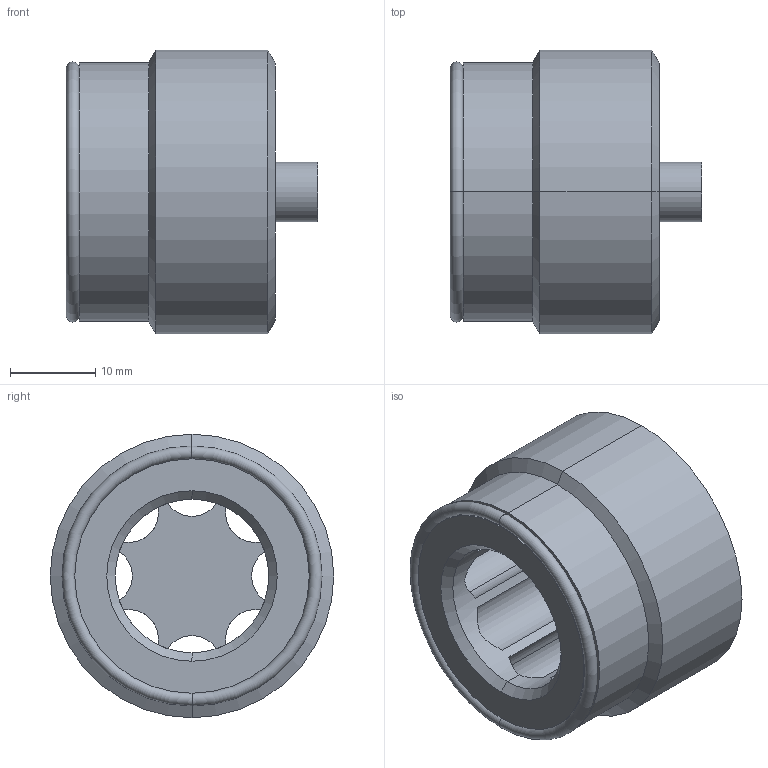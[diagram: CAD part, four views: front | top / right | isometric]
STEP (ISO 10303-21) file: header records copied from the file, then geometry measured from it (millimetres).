
FILE_DESCRIPTION (( 'STEP AP214' ), '1' );
FILE_NAME ('INRV18-001.STEP', '2023-07-14T11:25:47', ( '' ), ( '' ), 'SwSTEP 2.0', 'SolidWorks 2014', '' );
FILE_SCHEMA (( 'AUTOMOTIVE_DESIGN' ));
Length unit declared in the file: millimetre
Products named in the file (1): INRV18-001
Bounding box: 29.5 x 33.25 x 33.25 mm (x, y, z)
Volume: 10183.4 mm3; surface area: 7446.4 mm2
Topology: 1 solids, 1 shells, 55 faces, 172 edges, 98 vertices
Faces by surface type: cylinder 26, cone 22, plane 5, torus 2
Entity records: 1998 total; most frequent: CARTESIAN_POINT 432, DIRECTION 340, ORIENTED_EDGE 312, EDGE_CURVE 156, AXIS2_PLACEMENT_3D 138, VERTEX_POINT 98, CIRCLE 82, EDGE_LOOP 66
